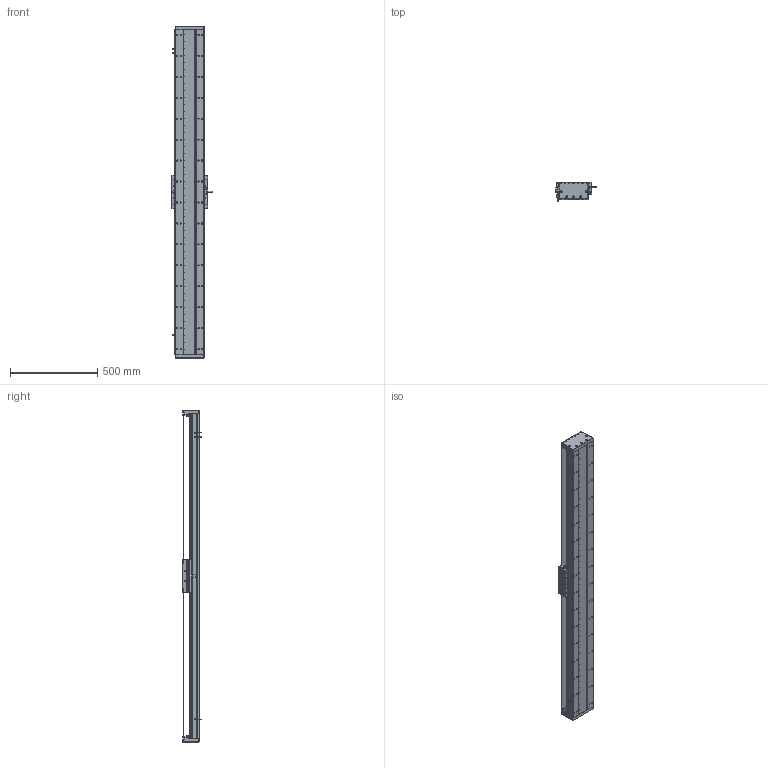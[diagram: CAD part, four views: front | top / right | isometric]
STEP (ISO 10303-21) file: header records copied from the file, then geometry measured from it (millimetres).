
FILE_DESCRIPTION (( 'STEP AP203' ), '1' );
FILE_NAME ('DA-C165-C2-T1620-C010-0.2 直线电机.STEP', '2023-05-11T07:41:22', ( '微软用户' ), ( '微软中国' ), 'SwSTEP 2.0', 'SolidWorks 2019', '' );
FILE_SCHEMA (( 'CONFIG_CONTROL_DESIGN' ));
Length unit declared in the file: millimetre
Products named in the file (18): 复件 DA165-GYP-00 光电感应片^DA-C165-C2-T-C010-0.2-N 直线电机; IU-CU165-L-00 菁釱_L1860; 复件 DA165-GDYK-00 钢带压块^复件 CU165钢带组件_DA-C165-C2-T-C010-0.2-N 直线电机; IU-CU165-L 菁釱絳寢; 复件 DA95-HXJ-00 缓冲橡胶^DA-C165-C2-T-C010-0.2-N 直线电机; 葩璃 PM-T45^DA-C165-C2-T-C010-0.2-N 眻盄萇儂; 复件 DA165-GD-1860-002-00 钢带盖板^复件 CU165钢带组件_DA-C165-C2-T-C010-0.2-N 直线电机; 复件 DA165-GDLK-00 钢带拉块^复件 CU165钢带组件_DA-C165-C2-T-C010-0.2-N 直线电机; 复件 CU165钢带组件^DA-C165-C2-T-C010-0.2-N 直线电机; 复件 六角薄螺母 M3^DA-C165-C2-T-C010-0.2-N 直线电机_GB_FASTENER_NUT_STNAB M3-C; 复件 XD-U-02L 磁栅尺^DA-C165-C2-T-C010-0.2-N 直线电机_T; 复件 DA165-GD-DG-H-00 端盖^复件 CU165钢带组件_DA-C165-C2-T-C010-0.2-N 直线电机; 葩璃 DA95-GT-T-00^IU-CU165-L 菁釱絳寢_T; 复件 DMA-010-0.2 读数头^DA-C165-C2-T-C010-0.2-N 直线电机; DA-C165-C2-T1620-C010-0.2 眻盄萇儂; 复件 CKM02-W075-C1C2-TP-3.0 一体电机-C2^DA-C165-C2-T-C010-0.2-N 直线电机; 珨极趙賑雄怢啣wf-C2; 葩璃 CKM01-W075-TRL^DA-C165-C2-T-C010-0.2-N 眻盄萇儂
Assembly tree (33 placements, depth 3):
  DA-C165-C2-T1620-C010-0.2 眻盄萇儂
    IU-CU165-L 菁釱絳寢
      IU-CU165-L-00 菁釱_L1860
      葩璃 DA95-GT-T-00^IU-CU165-L 菁釱絳寢_T  x4
    复件 XD-U-02L 磁栅尺^DA-C165-C2-T-C010-0.2-N 直线电机_T
    葩璃 PM-T45^DA-C165-C2-T-C010-0.2-N 眻盄萇儂  x3
    葩璃 CKM01-W075-TRL^DA-C165-C2-T-C010-0.2-N 眻盄萇儂
    复件 CU165钢带组件^DA-C165-C2-T-C010-0.2-N 直线电机
      复件 DA165-GD-DG-H-00 端盖^复件 CU165钢带组件_DA-C165-C2-T-C010-0.2-N 直线电机  x2
      复件 DA165-GDYK-00 钢带压块^复件 CU165钢带组件_DA-C165-C2-T-C010-0.2-N 直线电机  x2
      复件 DA165-GD-1860-002-00 钢带盖板^复件 CU165钢带组件_DA-C165-C2-T-C010-0.2-N 直线电机
      复件 DA165-GDLK-00 钢带拉块^复件 CU165钢带组件_DA-C165-C2-T-C010-0.2-N 直线电机  x2
    复件 DA95-HXJ-00 缓冲橡胶^DA-C165-C2-T-C010-0.2-N 直线电机  x4
    复件 DA165-GYP-00 光电感应片^DA-C165-C2-T-C010-0.2-N 直线电机
    复件 DMA-010-0.2 读数头^DA-C165-C2-T-C010-0.2-N 直线电机
    复件 CKM02-W075-C1C2-TP-3.0 一体电机-C2^DA-C165-C2-T-C010-0.2-N 直线电机
    复件 六角薄螺母 M3^DA-C165-C2-T-C010-0.2-N 直线电机_GB_FASTENER_NUT_STNAB M3-C  x6
    珨极趙賑雄怢啣wf-C2
Bounding box: 233 x 111.45 x 1900 mm (x, y, z)
Volume: 11129699.5 mm3; surface area: 3278645.4 mm2
Topology: 70 solids, 70 shells, 3531 faces, 10083 edges, 6397 vertices
Faces by surface type: cylinder 1973, plane 1078, cone 430, torus 46, sphere 4
Entity records: 113439 total; most frequent: CARTESIAN_POINT 29213, ORIENTED_EDGE 17338, DIRECTION 17051, EDGE_CURVE 8669, AXIS2_PLACEMENT_3D 6479, VERTEX_POINT 5633, LINE 4093, VECTOR 4093
